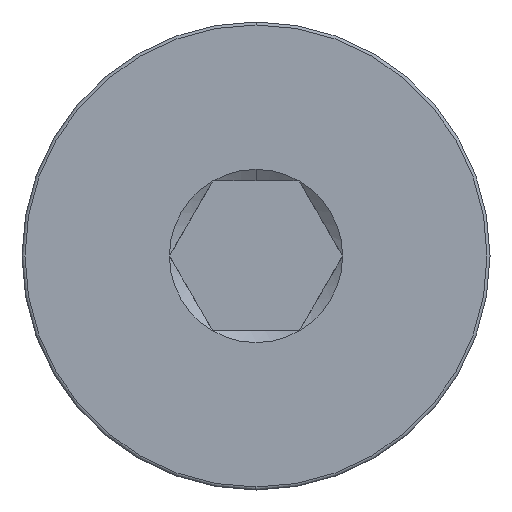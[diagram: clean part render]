
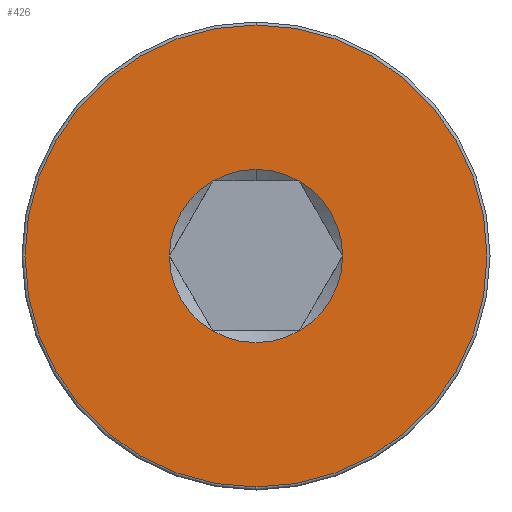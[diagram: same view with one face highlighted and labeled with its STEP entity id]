
A CAD part, left-side view. The second image highlights one B-rep face of the part: STEP entity #426.
In plain terms, the highlighted planar face has unit normal (-1, 0, 0).
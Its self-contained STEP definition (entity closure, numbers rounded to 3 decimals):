
#1 = VERTEX_POINT ( 'NONE', #737 ) ;
#7 = AXIS2_PLACEMENT_3D ( 'NONE', #617, #68, #306 ) ;
#12 = CARTESIAN_POINT ( 'NONE',  ( 0., 0., 0. ) ) ;
#30 = EDGE_CURVE ( 'NONE', #744, #1, #60, .T. ) ;
#34 = CIRCLE ( 'NONE', #157, 1.443 ) ;
#35 = EDGE_CURVE ( 'NONE', #286, #773, #123, .T. ) ;
#41 = DIRECTION ( 'NONE',  ( 0., 0., -1. ) ) ;
#60 = CIRCLE ( 'NONE', #646, 1.443 ) ;
#65 = CARTESIAN_POINT ( 'NONE',  ( 0., 0., 0. ) ) ;
#68 = DIRECTION ( 'NONE',  ( -1., 0., 0. ) ) ;
#70 = ORIENTED_EDGE ( 'NONE', *, *, #341, .T. ) ;
#87 = ORIENTED_EDGE ( 'NONE', *, *, #596, .T. ) ;
#96 = DIRECTION ( 'NONE',  ( 1., 0., 0. ) ) ;
#107 = CARTESIAN_POINT ( 'NONE',  ( 0., 1.443, 0. ) ) ;
#123 = CIRCLE ( 'NONE', #714, 3.85 ) ;
#134 = CIRCLE ( 'NONE', #413, 3.85 ) ;
#135 = DIRECTION ( 'NONE',  ( 1., 0., 0. ) ) ;
#142 = DIRECTION ( 'NONE',  ( 1., 0., 0. ) ) ;
#146 = DIRECTION ( 'NONE',  ( 0., 0., -1. ) ) ;
#148 = DIRECTION ( 'NONE',  ( 1., 0., 0. ) ) ;
#157 = AXIS2_PLACEMENT_3D ( 'NONE', #221, #645, #395 ) ;
#158 = EDGE_LOOP ( 'NONE', ( #314, #433 ) ) ;
#159 = AXIS2_PLACEMENT_3D ( 'NONE', #450, #148, #628 ) ;
#160 = DIRECTION ( 'NONE',  ( 0., 0., 1. ) ) ;
#170 = CIRCLE ( 'NONE', #313, 1.443 ) ;
#216 = EDGE_CURVE ( 'NONE', #345, #248, #793, .T. ) ;
#221 = CARTESIAN_POINT ( 'NONE',  ( 0., 0., 0. ) ) ;
#227 = ORIENTED_EDGE ( 'NONE', *, *, #216, .T. ) ;
#231 = DIRECTION ( 'NONE',  ( 1., 0., 0. ) ) ;
#247 = CIRCLE ( 'NONE', #585, 1.443 ) ;
#248 = VERTEX_POINT ( 'NONE', #107 ) ;
#264 = CIRCLE ( 'NONE', #597, 1.443 ) ;
#272 = CARTESIAN_POINT ( 'NONE',  ( 0., 0., 3.85 ) ) ;
#286 = VERTEX_POINT ( 'NONE', #523 ) ;
#294 = ORIENTED_EDGE ( 'NONE', *, *, #770, .T. ) ;
#306 = DIRECTION ( 'NONE',  ( 0., 0., 1. ) ) ;
#307 = CARTESIAN_POINT ( 'NONE',  ( 0., 0., 0. ) ) ;
#313 = AXIS2_PLACEMENT_3D ( 'NONE', #627, #135, #146 ) ;
#314 = ORIENTED_EDGE ( 'NONE', *, *, #704, .T. ) ;
#341 = EDGE_CURVE ( 'NONE', #666, #600, #752, .T. ) ;
#345 = VERTEX_POINT ( 'NONE', #594 ) ;
#370 = ORIENTED_EDGE ( 'NONE', *, *, #30, .T. ) ;
#395 = DIRECTION ( 'NONE',  ( 0., 0., -1. ) ) ;
#413 = AXIS2_PLACEMENT_3D ( 'NONE', #705, #522, #160 ) ;
#418 = FACE_BOUND ( 'NONE', #660, .T. ) ;
#423 = DIRECTION ( 'NONE',  ( 0., 0., 1. ) ) ;
#426 = ADVANCED_FACE ( 'NONE', ( #665, #418 ), #740, .T. ) ;
#433 = ORIENTED_EDGE ( 'NONE', *, *, #35, .T. ) ;
#438 = DIRECTION ( 'NONE',  ( 0., 0., -1. ) ) ;
#450 = CARTESIAN_POINT ( 'NONE',  ( 0., 0., 0. ) ) ;
#482 = CARTESIAN_POINT ( 'NONE',  ( 0., -0.722, 1.25 ) ) ;
#502 = VERTEX_POINT ( 'NONE', #482 ) ;
#522 = DIRECTION ( 'NONE',  ( -1., 0., 0. ) ) ;
#523 = CARTESIAN_POINT ( 'NONE',  ( 0., 0., -3.85 ) ) ;
#539 = DIRECTION ( 'NONE',  ( 0., 0., -1. ) ) ;
#566 = EDGE_CURVE ( 'NONE', #248, #744, #264, .T. ) ;
#582 = CARTESIAN_POINT ( 'NONE',  ( 0., -1.443, 0. ) ) ;
#584 = AXIS2_PLACEMENT_3D ( 'NONE', #644, #96, #588 ) ;
#585 = AXIS2_PLACEMENT_3D ( 'NONE', #589, #775, #41 ) ;
#587 = CARTESIAN_POINT ( 'NONE',  ( 0., 0.722, 1.25 ) ) ;
#588 = DIRECTION ( 'NONE',  ( 0., 0., -1. ) ) ;
#589 = CARTESIAN_POINT ( 'NONE',  ( 0., 0., 0. ) ) ;
#594 = CARTESIAN_POINT ( 'NONE',  ( 0., 0.722, -1.25 ) ) ;
#596 = EDGE_CURVE ( 'NONE', #1, #502, #170, .T. ) ;
#597 = AXIS2_PLACEMENT_3D ( 'NONE', #12, #142, #438 ) ;
#600 = VERTEX_POINT ( 'NONE', #689 ) ;
#617 = CARTESIAN_POINT ( 'NONE',  ( 0., 0., 0. ) ) ;
#627 = CARTESIAN_POINT ( 'NONE',  ( 0., 0., 0. ) ) ;
#628 = DIRECTION ( 'NONE',  ( 0., 0., -1. ) ) ;
#644 = CARTESIAN_POINT ( 'NONE',  ( 0., 0., 0. ) ) ;
#645 = DIRECTION ( 'NONE',  ( 1., 0., 0. ) ) ;
#646 = AXIS2_PLACEMENT_3D ( 'NONE', #65, #231, #539 ) ;
#660 = EDGE_LOOP ( 'NONE', ( #788, #370, #87, #294, #70, #673, #227 ) ) ;
#665 = FACE_OUTER_BOUND ( 'NONE', #158, .T. ) ;
#666 = VERTEX_POINT ( 'NONE', #582 ) ;
#673 = ORIENTED_EDGE ( 'NONE', *, *, #708, .T. ) ;
#689 = CARTESIAN_POINT ( 'NONE',  ( 0., -0.722, -1.25 ) ) ;
#704 = EDGE_CURVE ( 'NONE', #773, #286, #134, .T. ) ;
#705 = CARTESIAN_POINT ( 'NONE',  ( 0., 0., 0. ) ) ;
#708 = EDGE_CURVE ( 'NONE', #600, #345, #34, .T. ) ;
#714 = AXIS2_PLACEMENT_3D ( 'NONE', #307, #728, #423 ) ;
#728 = DIRECTION ( 'NONE',  ( -1., 0., 0. ) ) ;
#737 = CARTESIAN_POINT ( 'NONE',  ( 0., 0., 1.443 ) ) ;
#740 = PLANE ( 'NONE',  #7 ) ;
#744 = VERTEX_POINT ( 'NONE', #587 ) ;
#752 = CIRCLE ( 'NONE', #584, 1.443 ) ;
#770 = EDGE_CURVE ( 'NONE', #502, #666, #247, .T. ) ;
#773 = VERTEX_POINT ( 'NONE', #272 ) ;
#775 = DIRECTION ( 'NONE',  ( 1., 0., 0. ) ) ;
#788 = ORIENTED_EDGE ( 'NONE', *, *, #566, .T. ) ;
#793 = CIRCLE ( 'NONE', #159, 1.443 ) ;
